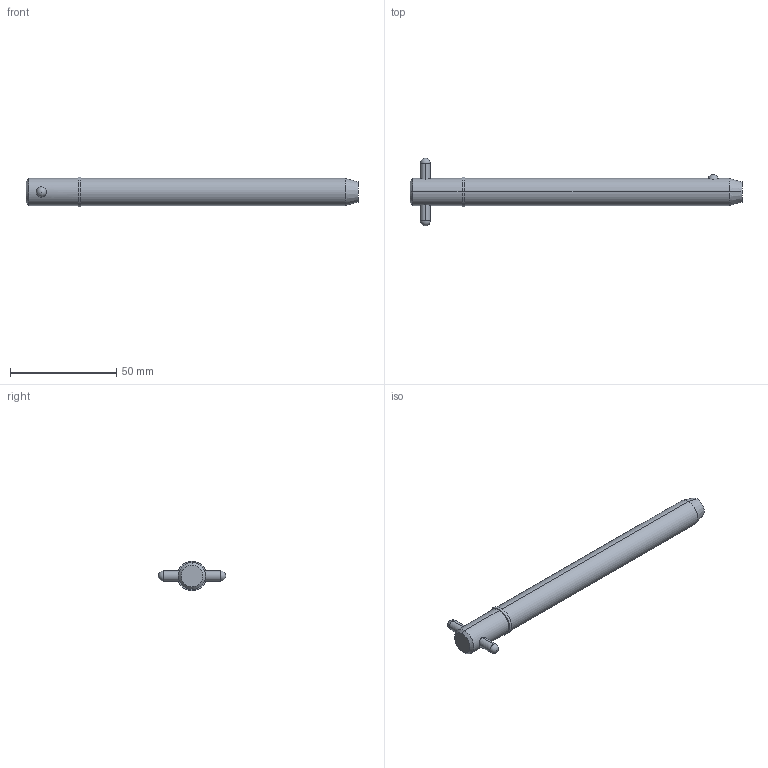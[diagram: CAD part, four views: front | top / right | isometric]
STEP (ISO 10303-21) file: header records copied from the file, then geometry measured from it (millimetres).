
FILE_DESCRIPTION (( 'STEP AP203' ), '1' );
FILE_NAME ('33018.W5045.step', '2024-11-19T17:15:24', ( '' ), ( '' ), 'SwSTEP 2.0', 'SolidWorks 2019', '' );
FILE_SCHEMA (( 'CONFIG_CONTROL_DESIGN' ));
Length unit declared in the file: millimetre
Products named in the file (3): Part2_33018.W5045; Part1_33018.W5045; 33018.W5045
Assembly tree (2 placements, depth 2):
  33018.W5045
    Part1_33018.W5045
    Part2_33018.W5045
Bounding box: 155.88 x 31.75 x 13.97 mm (x, y, z)
Volume: 19913.1 mm3; surface area: 7055.6 mm2
Topology: 2 solids, 2 shells, 22 faces, 47 edges, 30 vertices
Faces by surface type: cylinder 10, sphere 4, cone 4, plane 4
Entity records: 1043 total; most frequent: CARTESIAN_POINT 286, DIRECTION 110, ORIENTED_EDGE 82, AXIS2_PLACEMENT_3D 48, EDGE_CURVE 41, EDGE_LOOP 27, PERSON_AND_ORGANIZATION 26, VERTEX_POINT 26
